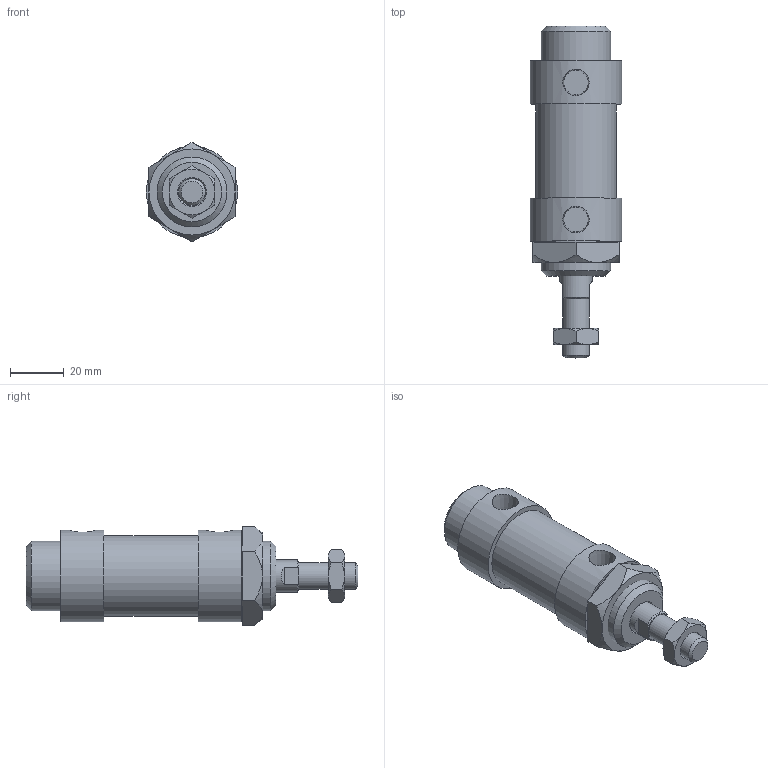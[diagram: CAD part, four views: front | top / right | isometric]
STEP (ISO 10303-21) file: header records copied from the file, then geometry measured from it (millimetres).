
FILE_DESCRIPTION(/* description */ ('Unknown'),/* implementation_level */ '2;1');
FILE_NAME(/* name */ 'WK25',/* time_stamp */ '2026-07-17T16:31:00+08:00',/* author */ ('Unknown'),/* organization */ ('Unknown'),/* preprocessor_version */ 'ST-DEVELOPER v16.7',/* originating_system */ 'DEX',/* authorisation */ $);
FILE_SCHEMA (('CONFIG_CONTROL_DESIGN'));
Length unit declared in the file: millimetre
Products named in the file (7): WK25; WK25_前; WK25_､ﾟｶbｬ｡_;m^XD}; WK25_後; WK25_鋁; M10-1.25P-6_螺; M26-1.5P-8_螺
Assembly tree (6 placements, depth 2):
  WK25
    WK25_前
    WK25_､ﾟｶbｬ｡_;m^XD}
    WK25_後
    WK25_鋁
    M10-1.25P-6_螺
    M26-1.5P-8_螺
Bounding box: 34 x 123.5 x 36.95 mm (x, y, z)
Volume: 74299.5 mm3; surface area: 26318.4 mm2
Topology: 6 solids, 6 shells, 90 faces, 185 edges, 114 vertices
Faces by surface type: plane 43, cone 32, cylinder 15
Full cylindrical faces by diameter (mm): 8.75 x1, 10 x1, 12 x2, 24.5 x2, 25 x1, 26 x2, 27 x2, 30 x1, 32 x1, 34 x2
Entity records: 2977 total; most frequent: CARTESIAN_POINT 523, DIRECTION 370, ORIENTED_EDGE 294, AXIS2_PLACEMENT_3D 168, EDGE_CURVE 147, EDGE_LOOP 132, FACE_BOUND 132, VERTEX_POINT 103
